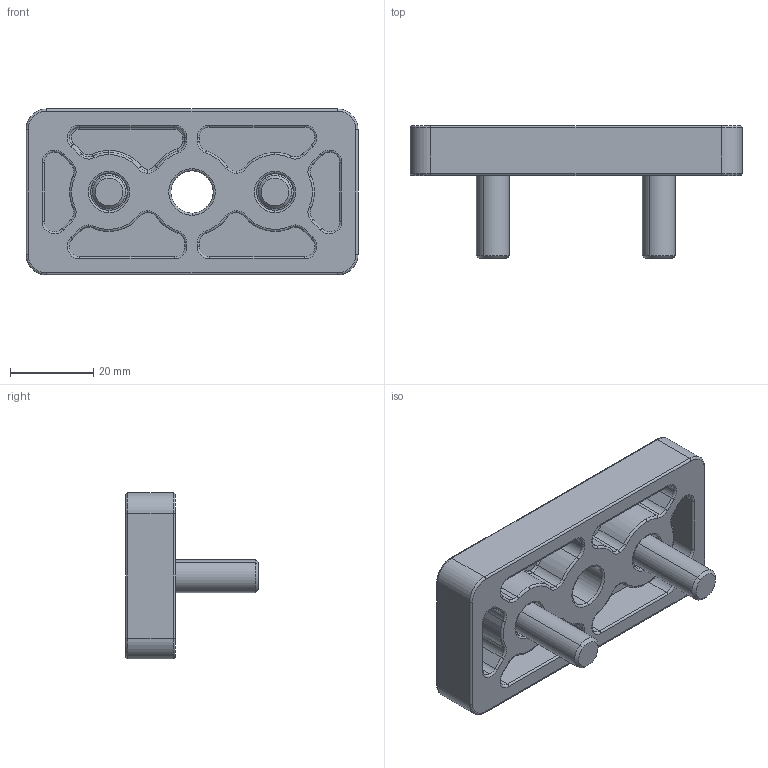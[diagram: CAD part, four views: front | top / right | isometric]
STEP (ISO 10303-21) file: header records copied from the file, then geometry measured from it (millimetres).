
FILE_DESCRIPTION (( 'STEP AP214' ), '1' );
FILE_NAME ('1.5045 Kierrelevy 40X80 M12.STEP', '2025-09-16T07:25:55', ( '' ), ( '' ), 'SwSTEP 2.0', 'SolidWorks 2025', '' );
FILE_SCHEMA (( 'AUTOMOTIVE_DESIGN' ));
Length unit declared in the file: millimetre
Products named in the file (1): 1.5045 Kierrelevy 40X80 M12
Bounding box: 80 x 32 x 40 mm (x, y, z)
Volume: 28819.3 mm3; surface area: 15249.9 mm2
Topology: 3 solids, 3 shells, 265 faces, 613 edges, 362 vertices
Faces by surface type: cylinder 104, torus 85, plane 66, cone 10
Entity records: 10462 total; most frequent: DIRECTION 1510, CARTESIAN_POINT 1237, ORIENTED_EDGE 1218, AXIS2_PLACEMENT_3D 635, EDGE_CURVE 609, CIRCLE 369, VERTEX_POINT 362, EDGE_LOOP 283
